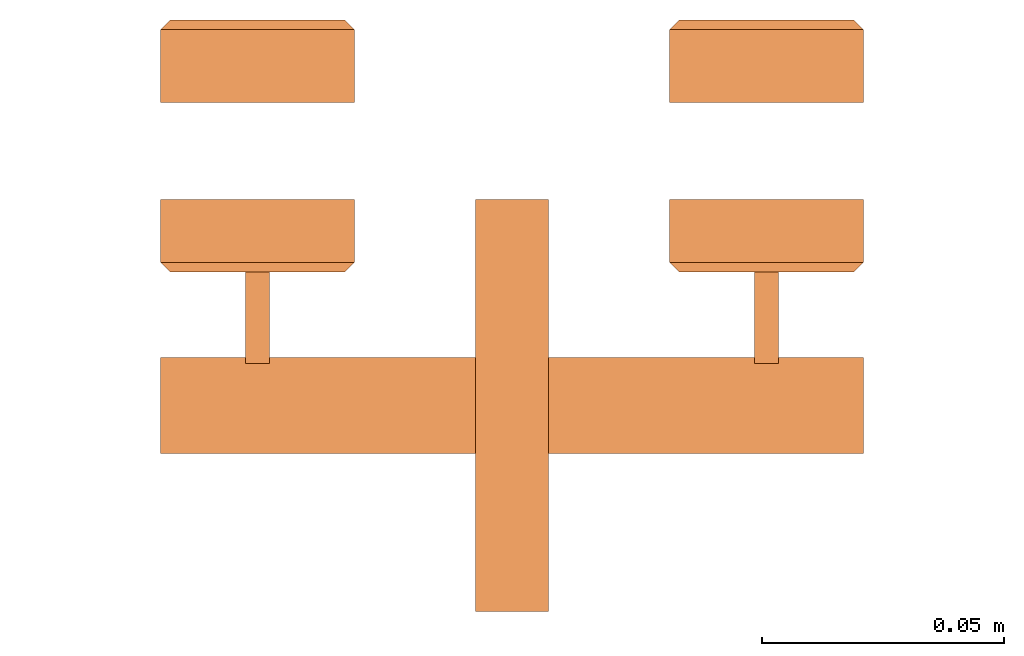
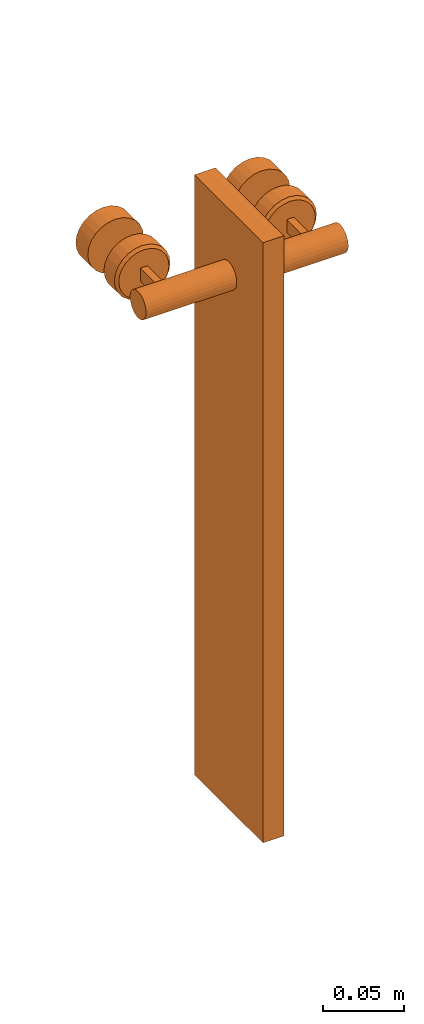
# One storey, part 4 of 10: 1 proxy.
"""IFC2X3 building model written with IfcOpenShell, lengths in millimetres."""

import ifcopenshell
import ifcopenshell.guid

model = None  # the IFC model being written
_history = None  # IfcOwnerHistory: only IFC2X3 demands one
_inside = {}  # id of a spatial element -> (the spatial element, [elements in it])
_under = {}  # id of a project, library or spatial element -> (it, [spatial elements below it])
_declared = {}  # id of a project -> (the project, [libraries it declares])
_typed = {}  # id of a type object -> (the type object, [elements of that type])
_made_of = {}  # id of a material, layer set ... -> (it, [elements and type objects made of it])


def new_model(schema):
    """Start an empty IFC model of exactly this schema.

    Asked for "IFC4X3", IfcOpenShell would pick the latest addendum, in which some entities
    have other attributes; the version numbers below select the first issue.
    IFC2X3 requires an IfcOwnerHistory on every rooted entity: one is made here for all.
    """
    global model, _history
    if schema == "IFC4X3":
        model = ifcopenshell.file(schema_version=(4, 3, 0, 0))
    else:
        model = ifcopenshell.file(schema=schema)
    _inside.clear()
    _under.clear()
    _declared.clear()
    _typed.clear()
    _made_of.clear()
    _history = None
    if model.schema == "IFC2X3":
        org = make("IfcOrganization", Name="unknown")
        user = make(
            "IfcPersonAndOrganization",
            ThePerson=make("IfcPerson", FamilyName="unknown"),
            TheOrganization=org,
        )
        app = make(
            "IfcApplication",
            ApplicationDeveloper=org,
            Version="unknown",
            ApplicationFullName="unknown",
            ApplicationIdentifier="unknown",
        )
        _history = make(
            "IfcOwnerHistory",
            OwningUser=user,
            OwningApplication=app,
            ChangeAction="ADDED",
            CreationDate=0,
        )
    return model


def make(cls, **values):
    """One entity of the class cls with the attributes given. An attribute that is None is left unset."""
    return model.create_entity(
        cls, **{name: value for name, value in values.items() if value is not None}
    )


def entity(cls, *values):
    """Any entity or typed value of the class cls, its attributes in the order of the schema. None: left unset."""
    e = model.create_entity(cls)
    for i, value in enumerate(values):
        if value is not None:
            e[i] = value
    return e


def rooted(cls, **values):
    """An entity with a GlobalId (a new one), such as an element, a storey or a relation."""
    return make(cls, GlobalId=ifcopenshell.guid.new(), OwnerHistory=_history, **values)


def si_unit(unit_type, name, prefix=None):
    """IfcSIUnit, for example si_unit("LENGTHUNIT", "METRE", prefix="MILLI")."""
    return make("IfcSIUnit", UnitType=unit_type, Prefix=prefix, Name=name)


def converted_unit(unit_type, name, factor, base, dimensions=None, offset=None):
    """IfcConversionBasedUnit, such as the inch: factor (a typed value) times the base unit."""
    return make(
        "IfcConversionBasedUnit"
        if offset is None
        else "IfcConversionBasedUnitWithOffset",
        ConversionOffset=offset,
        Dimensions=None
        if dimensions is None
        else entity("IfcDimensionalExponents", *dimensions),
        UnitType=unit_type,
        Name=name,
        ConversionFactor=make(
            "IfcMeasureWithUnit", ValueComponent=factor, UnitComponent=base
        ),
    )


def derived_unit(unit_type, elements):
    """IfcDerivedUnit: a product of units, each with its exponent."""
    return make(
        "IfcDerivedUnit",
        Elements=[
            make("IfcDerivedUnitElement", Unit=unit, Exponent=power)
            for unit, power in elements
        ],
        UnitType=unit_type,
    )


def assignment(units):
    """IfcUnitAssignment: the units of a project."""
    return None if units is None else make("IfcUnitAssignment", Units=units)


def point(xyz):
    """IfcCartesianPoint."""
    return None if xyz is None else make("IfcCartesianPoint", Coordinates=xyz)


def direction(xyz):
    """IfcDirection."""
    return None if xyz is None else make("IfcDirection", DirectionRatios=xyz)


def frame(location, z_axis=None, x_axis=None):
    """IfcAxis2Placement3D, a coordinate frame: its origin and axes. An axis left out is left unset."""
    return make(
        "IfcAxis2Placement3D",
        Location=point(location),
        Axis=direction(z_axis),
        RefDirection=direction(x_axis),
    )


def origin_with_axes():
    """The frame at (0, 0, 0) with the z axis (0, 0, 1) and the x axis (1, 0, 0) written out."""
    return frame((0.0, 0.0, 0.0), z_axis=(0.0, 0.0, 1.0), x_axis=(1.0, 0.0, 0.0))


def place(relative_to, where):
    """IfcLocalPlacement: puts the frame where relative to a parent placement (None: the world)."""
    return make(
        "IfcLocalPlacement", PlacementRelTo=relative_to, RelativePlacement=where
    )


def context(
    kind, dimensions, precision=None, world=None, true_north=None, identifier=None
):
    """IfcGeometricRepresentationContext, for example the 3D "Model" context."""
    return make(
        "IfcGeometricRepresentationContext",
        ContextIdentifier=identifier,
        ContextType=kind,
        CoordinateSpaceDimension=dimensions,
        Precision=precision,
        WorldCoordinateSystem=world,
        TrueNorth=true_north,
    )


def subcontext(parent, identifier, kind, view, scale=None):
    """IfcGeometricRepresentationSubContext, for example "Body" below "Model"."""
    return make(
        "IfcGeometricRepresentationSubContext",
        ContextIdentifier=identifier,
        ContextType=kind,
        ParentContext=parent,
        TargetScale=scale,
        TargetView=view,
    )


def project(units=None, contexts=None):
    """IfcProject with its units and contexts."""
    return rooted(
        "IfcProject",
        Name="project",
        RepresentationContexts=contexts,
        UnitsInContext=assignment(units),
    )


def spatial(cls, under=None, at=None, **own):
    """A site, building, storey or space (cls), placed at a placement, below another one or the project."""
    s = rooted(cls, ObjectPlacement=at, **own)
    if under is not None:
        _under.setdefault(under.id(), (under, []))[1].append(s)
    return s


def faces_of(points, faces, orient=None, outer=None):
    """IfcFace entities. A face is a list of loops; a loop is a list of indices into points, from 0.

    orient and outer hold one flag for each loop. By default every Orientation is true, the
    first loop of a face is its IfcFaceOuterBound and the others are IfcFaceBound.
    """
    made = []
    for i, loops in enumerate(faces):
        bounds = []
        for j, loop in enumerate(loops):
            is_outer = j == 0 if outer is None else outer[i][j]
            bounds.append(
                make(
                    "IfcFaceOuterBound" if is_outer else "IfcFaceBound",
                    Bound=make("IfcPolyLoop", Polygon=[points[k] for k in loop]),
                    Orientation=True if orient is None else orient[i][j],
                )
            )
        made.append(make("IfcFace", Bounds=bounds))
    return made


def faceted_brep(points, faces, orient=None, outer=None, voids=None):
    """IfcFacetedBrep: a solid bounded by flat faces; with voids (closed shells), ...WithVoids."""
    shared = [point(p) for p in points]
    hull = make("IfcClosedShell", CfsFaces=faces_of(shared, faces, orient, outer))
    if voids is None:
        return make("IfcFacetedBrep", Outer=hull)
    return make(
        "IfcFacetedBrepWithVoids",
        Outer=hull,
        Voids=[
            make(cls, CfsFaces=faces_of(shared, fs, o, b)) for cls, fs, o, b in voids
        ],
    )


def shape(context_of_items, identifier, shape_type, items):
    """IfcShapeRepresentation: the items that make up one representation, for example the "Body"."""
    return make(
        "IfcShapeRepresentation",
        ContextOfItems=context_of_items,
        RepresentationIdentifier=identifier,
        RepresentationType=shape_type,
        Items=items,
    )


def material(Name=None, Category=None):
    """IfcMaterial."""
    return make("IfcMaterial", Name=Name, Category=Category)


def material_list(materials):
    """IfcMaterialList."""
    return make("IfcMaterialList", Materials=materials)


def made_of(thing, what):
    """Note that an element or type object is made of a material, layer set ...; save() writes the relation."""
    if what is not None:
        _made_of.setdefault(what.id(), (what, []))[1].append(thing)
    return thing


def type_object(cls, material=None, **own):
    """A type object (cls), such as IfcWallType, which elements share."""
    return made_of(rooted(cls, **own), material)


def element(
    cls,
    number,
    at=None,
    inside=None,
    cuts=None,
    type_object=None,
    material=None,
    context=None,
    identifier="Body",
    shape_type=None,
    held_by="IfcProductDefinitionShape",
    body=None,
    shapes=None,
    **own,
):
    """One element of the class cls, such as IfcWall. Its Tag is "e" and its number.

    at: its placement. inside: the storey or other place that contains it. cuts: it is an
    opening in that element (IfcRelVoidsElement). A single representation is given by context,
    identifier, shape_type and body (its items); several are given by shapes. held_by: the class
    of the entity that holds the representations. save() writes the other relations.
    """
    e = rooted(cls, Tag="e%d" % number, ObjectPlacement=at, **own)
    if body is not None:
        shapes = [shape(context, identifier, shape_type, body)]
    if shapes is not None:
        e.Representation = make(held_by, Representations=shapes)
    if inside is not None:
        _inside.setdefault(inside.id(), (inside, []))[1].append(e)
    if cuts is not None:
        rooted(
            "IfcRelVoidsElement", RelatingBuildingElement=cuts, RelatedOpeningElement=e
        )
    if type_object is not None:
        _typed.setdefault(type_object.id(), (type_object, []))[1].append(e)
    return made_of(e, material)


def aggregate(whole, parts):
    """IfcRelAggregates: a whole, such as a stair, and the parts it consists of."""
    return rooted("IfcRelAggregates", RelatingObject=whole, RelatedObjects=parts)


def save(model, path):
    """Write the relations noted so far, then the file.

    IfcRelAggregates (storeys below a building ...), IfcRelContainedInSpatialStructure (elements
    in a storey), IfcRelDefinesByType, IfcRelAssociatesMaterial and IfcRelDeclares: one each for
    every whole, place, type object, material and project.
    """
    for whole, parts in _under.values():
        aggregate(whole, parts)
    for where, things in _inside.values():
        rooted(
            "IfcRelContainedInSpatialStructure",
            RelatedElements=things,
            RelatingStructure=where,
        )
    for kind, things in _typed.values():
        rooted("IfcRelDefinesByType", RelatedObjects=things, RelatingType=kind)
    for what, things in _made_of.values():
        rooted("IfcRelAssociatesMaterial", RelatedObjects=things, RelatingMaterial=what)
    for by, libraries in _declared.values():
        rooted("IfcRelDeclares", RelatingContext=by, RelatedDefinitions=libraries)
    model.write(path)


model = new_model("IFC2X3")

# Units and contexts
model_context = context("Model", 3, precision=0.01, world=frame((0.0, 4.29681676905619e-09, 0.0)), true_north=direction((4.01073788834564e-13, 1.0)))
plan_context = context("Plan", 3, precision=0.01, world=frame((0.0, 4.29681676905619e-09, 0.0)), true_north=direction((4.01073788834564e-13, 1.0)))
footprint_context = subcontext(model_context, "FootPrint", "Model", "MODEL_VIEW")
ifc_project = project(units=[converted_unit("PLANEANGLEUNIT", "DEGREE", entity("IfcPositiveLengthMeasure", 0.0174532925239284), si_unit("PLANEANGLEUNIT", "RADIAN"), dimensions=[0, 0, 0, 0, 0, 0, 0]), si_unit("AREAUNIT", "SQUARE_METRE"), si_unit("LENGTHUNIT", "METRE", prefix="MILLI"), si_unit("MASSUNIT", "GRAM", prefix="KILO"), si_unit("POWERUNIT", "WATT"), si_unit("PRESSUREUNIT", "PASCAL"), si_unit("FORCEUNIT", "NEWTON", prefix="KILO"), si_unit("ELECTRICVOLTAGEUNIT", "VOLT"), si_unit("ELECTRICCURRENTUNIT", "AMPERE"), si_unit("THERMODYNAMICTEMPERATUREUNIT", "DEGREE_CELSIUS"), si_unit("TIMEUNIT", "SECOND"), si_unit("VOLUMEUNIT", "CUBIC_METRE"), derived_unit("LINEARVELOCITYUNIT", [(si_unit("LENGTHUNIT", "METRE"), 1), (si_unit("TIMEUNIT", "SECOND"), -1)]), derived_unit("VOLUMETRICFLOWRATEUNIT", [(si_unit("VOLUMEUNIT", "CUBIC_METRE"), 1), (si_unit("TIMEUNIT", "SECOND"), -1)]), derived_unit("THERMALTRANSMITTANCEUNIT", [(si_unit("POWERUNIT", "WATT"), 1), (si_unit("THERMODYNAMICTEMPERATUREUNIT", "KELVIN"), -1), (si_unit("AREAUNIT", "SQUARE_METRE"), -1)]), derived_unit("SOUNDPRESSUREUNIT", [(si_unit("PRESSUREUNIT", "PASCAL"), 1)])], contexts=[model_context, plan_context])

# Site, building, storey
site_placement = place(None, origin_with_axes())
site = spatial("IfcSite", under=ifc_project, at=site_placement, Name="ENGM", CompositionType="ELEMENT")
building_placement = place(site_placement, origin_with_axes())
building = spatial("IfcBuilding", under=site, at=building_placement, Name="TH", CompositionType="ELEMENT")
storey_placement = place(building_placement, frame((0.0, 0.0, 197000.0), z_axis=(0.0, 0.0, 1.0), x_axis=(1.0, 0.0, 0.0)))
storey = spatial("IfcBuildingStorey", under=building, at=storey_placement, Name="Nivå B", CompositionType="ELEMENT", Elevation=197000.0)

# Proxy
ifc_material_1 = material(Name="<Unnamed>")
ifc_material_2 = material(Name="Steel, Cast")
ifc_material_list = material_list([ifc_material_1, ifc_material_2])
building_element_proxy_type = type_object("IfcBuildingElementProxyType", Name="Stål rekkverk unit + 285 ned:B280 - Stål rekkverk unit + 285 ned", PredefinedType="NOTDEFINED", material=ifc_material_list)
proxy_placement = place(storey_placement, frame((899500.000000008, 480820.004374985, 16699.9891538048), z_axis=(0.0, 0.0, 1.0), x_axis=(0.0, -1.0, 0.0)))
element("IfcBuildingElementProxy", 1, at=proxy_placement, inside=storey, type_object=building_element_proxy_type, Name="Stål rekkverk unit + 285 ned:B280 - Stål rekkverk unit + 285 ned", ObjectType="Stål rekkverk unit + 285 ned:B280 - Stål rekkverk unit + 285 ned", context=footprint_context, shape_type="Brep", body=[
    faceted_brep([(13.0, 47.3236190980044, 169.329362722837), (0.0, 47.3236190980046, 169.329362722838), (0.0, 52.5, 170.010846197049), (13.0, 52.4999999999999, 170.010846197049), (0.0, 57.6763809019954, 169.329362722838), (13.0, 57.6763809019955, 169.329362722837), (0.0, 62.4999999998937, 167.331354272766), (13.0, 62.4999999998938, 167.331354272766), (13.0, 66.6421356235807, 164.152981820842), (0.0, 66.6421356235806, 164.152981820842), (0.0, 69.8205080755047, 160.010846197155), (13.0, 69.8205080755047, 160.010846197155), (0.0, 71.818516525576, 155.187227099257), (13.0, 71.818516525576, 155.187227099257), (13.0, 72.4999999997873, 150.010846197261), (0.0, 72.4999999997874, 150.010846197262), (0.0, 71.818516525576, 144.834465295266), (13.0, 71.8185165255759, 144.834465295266), (0.0, 69.8205080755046, 140.010846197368), (13.0, 69.8205080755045, 140.010846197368), (0.0, 66.6421356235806, 135.868710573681), (13.0, 66.6421356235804, 135.868710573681), (0.0, 62.4999999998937, 132.690338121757), (13.0, 62.4999999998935, 132.690338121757), (0.0, 57.6763809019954, 130.692329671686), (13.0, 57.6763809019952, 130.692329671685), (0.0, 52.4999999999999, 130.010846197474), (13.0, 52.5, 130.010846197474), (0.0, 47.3236190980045, 130.692329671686), (13.0, 47.3236190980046, 130.692329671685), (0.0, 42.5000000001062, 132.690338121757), (13.0, 42.5000000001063, 132.690338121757), (13.0, 38.3578643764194, 135.868710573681), (0.0, 38.3578643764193, 135.868710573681), (0.0, 35.1794919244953, 140.010846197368), (13.0, 35.1794919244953, 140.010846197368), (0.0, 33.1814834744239, 144.834465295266), (13.0, 33.1814834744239, 144.834465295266), (13.0, 32.5000000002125, 150.010846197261), (0.0, 32.5000000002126, 150.010846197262), (0.0, 33.181483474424, 155.187227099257), (13.0, 33.1814834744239, 155.187227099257), (0.0, 35.1794919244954, 160.010846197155), (13.0, 35.1794919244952, 160.010846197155), (0.0, 38.3578643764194, 164.152981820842), (13.0, 38.3578643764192, 164.152981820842), (0.0, 42.5000000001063, 167.331354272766), (13.0, 42.5000000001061, 167.331354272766), (15.0, 61.5000000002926, 165.599303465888), (15.0, 65.2279220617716, 162.738768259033), (15.0, 68.0884572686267, 159.010846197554), (15.0, 69.8866648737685, 154.669589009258), (15.0, 70.5000000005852, 150.010846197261), (15.0, 69.8866648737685, 145.352103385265), (15.0, 68.0884572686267, 141.010846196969), (15.0, 65.2279220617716, 137.28292413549), (15.0, 61.5000000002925, 134.422388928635), (15.0, 57.1587428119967, 132.624181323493), (15.0, 52.4999999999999, 132.010846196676), (15.0, 47.8412571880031, 132.624181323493), (15.0, 43.4999999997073, 134.422388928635), (15.0, 39.7720779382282, 137.28292413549), (15.0, 36.9115427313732, 141.010846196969), (15.0, 35.1133351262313, 145.352103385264), (15.0, 34.4999999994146, 150.010846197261), (15.0, 35.1133351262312, 154.669589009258), (15.0, 36.911542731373, 159.010846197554), (15.0, 39.772077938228, 162.738768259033), (15.0, 43.4999999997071, 165.599303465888), (15.0, 47.8412571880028, 167.39751107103), (15.0, 52.4999999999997, 168.010846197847), (15.0, 57.1587428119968, 167.39751107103)], [[[0, 1, 2, 3]], [[2, 4, 5, 3]], [[4, 6, 7, 5]], [[8, 7, 6, 9]], [[8, 9, 10, 11]], [[10, 12, 13, 11]], [[14, 13, 12, 15]], [[16, 17, 14, 15]], [[16, 18, 19, 17]], [[18, 20, 21, 19]], [[22, 23, 21, 20]], [[23, 22, 24, 25]], [[25, 24, 26, 27]], [[26, 28, 29, 27]], [[28, 30, 31, 29]], [[32, 31, 30, 33]], [[32, 33, 34, 35]], [[34, 36, 37, 35]], [[38, 37, 36, 39]], [[40, 41, 38, 39]], [[40, 42, 43, 41]], [[42, 44, 45, 43]], [[46, 47, 45, 44]], [[47, 46, 1, 0]], [[30, 28, 26, 24, 22, 20, 18, 16, 15, 12, 10, 9, 6, 4, 2, 1, 46, 44, 42, 40, 39, 36, 34, 33]], [[48, 49, 50, 51, 52, 53, 54, 55, 56, 57, 58, 59, 60, 61, 62, 63, 64, 65, 66, 67, 68, 69, 70, 71]], [[3, 70, 69, 0]], [[3, 5, 71, 70]], [[5, 7, 48, 71]], [[7, 8, 49, 48]], [[50, 49, 8, 11]], [[13, 51, 50, 11]], [[14, 52, 51, 13]], [[14, 17, 53, 52]], [[17, 19, 54, 53]], [[19, 21, 55, 54]], [[56, 55, 21, 23]], [[25, 57, 56, 23]], [[27, 58, 57, 25]], [[27, 29, 59, 58]], [[29, 31, 60, 59]], [[31, 32, 61, 60]], [[62, 61, 32, 35]], [[37, 63, 62, 35]], [[38, 64, 63, 37]], [[38, 41, 65, 64]], [[41, 43, 66, 65]], [[43, 45, 67, 66]], [[68, 67, 45, 47]], [[0, 69, 68, 47]]], orient=[[False], [False], [False], [False], [False], [False], [False], [False], [False], [False], [False], [False], [False], [False], [False], [False], [False], [False], [False], [False], [False], [False], [False], [False], [False], [False], [False], [False], [False], [False], [False], [False], [False], [False], [False], [False], [False], [False], [False], [False], [False], [False], [False], [False], [False], [False], [False], [False], [False], [False]]),
    faceted_brep([(13.0, -47.3236190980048, 130.692329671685), (0.0, -47.3236190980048, 130.692329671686), (0.0, -52.5000000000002, 130.010846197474), (13.0, -52.5000000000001, 130.010846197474), (0.0, -57.6763809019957, 130.692329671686), (13.0, -57.6763809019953, 130.692329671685), (0.0, -62.499999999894, 132.690338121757), (13.0, -62.4999999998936, 132.690338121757), (13.0, -66.6421356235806, 135.868710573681), (0.0, -66.6421356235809, 135.868710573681), (0.0, -69.8205080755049, 140.010846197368), (13.0, -69.8205080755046, 140.010846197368), (0.0, -71.8185165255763, 144.834465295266), (13.0, -71.818516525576, 144.834465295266), (13.0, -72.4999999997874, 150.010846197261), (0.0, -72.4999999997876, 150.010846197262), (0.0, -71.8185165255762, 155.187227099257), (13.0, -71.818516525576, 155.187227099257), (0.0, -69.8205080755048, 160.010846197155), (13.0, -69.8205080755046, 160.010846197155), (0.0, -66.6421356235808, 164.152981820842), (13.0, -66.6421356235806, 164.152981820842), (0.0, -62.4999999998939, 167.331354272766), (13.0, -62.4999999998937, 167.331354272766), (0.0, -57.6763809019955, 169.329362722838), (13.0, -57.6763809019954, 169.329362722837), (0.0, -52.5000000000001, 170.010846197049), (13.0, -52.4999999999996, 170.010846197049), (0.0, -47.3236190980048, 169.329362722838), (13.0, -47.3236190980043, 169.329362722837), (0.0, -42.5000000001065, 167.331354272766), (13.0, -42.500000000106, 167.331354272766), (13.0, -38.3578643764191, 164.152981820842), (0.0, -38.3578643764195, 164.152981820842), (0.0, -35.1794919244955, 160.010846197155), (13.0, -35.1794919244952, 160.010846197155), (0.0, -33.1814834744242, 155.187227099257), (13.0, -33.1814834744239, 155.187227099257), (13.0, -32.5000000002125, 150.010846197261), (0.0, -32.5000000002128, 150.010846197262), (0.0, -33.1814834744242, 144.834465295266), (13.0, -33.181483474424, 144.834465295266), (0.0, -35.1794919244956, 140.010846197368), (13.0, -35.1794919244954, 140.010846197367), (0.0, -38.3578643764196, 135.868710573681), (13.0, -38.3578643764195, 135.868710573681), (0.0, -42.5000000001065, 132.690338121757), (13.0, -42.5000000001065, 132.690338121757), (15.0, -47.841257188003, 167.39751107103), (15.0, -43.4999999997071, 165.599303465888), (15.0, -39.7720779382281, 162.738768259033), (15.0, -36.9115427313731, 159.010846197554), (15.0, -35.1133351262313, 154.669589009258), (15.0, -34.4999999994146, 150.010846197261), (15.0, -35.1133351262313, 145.352103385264), (15.0, -36.9115427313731, 141.010846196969), (15.0, -39.7720779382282, 137.28292413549), (15.0, -43.4999999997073, 134.422388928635), (15.0, -47.8412571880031, 132.624181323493), (15.0, -52.5, 132.010846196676), (15.0, -57.1587428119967, 132.624181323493), (15.0, -61.5000000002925, 134.422388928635), (15.0, -65.2279220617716, 137.28292413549), (15.0, -68.0884572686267, 141.010846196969), (15.0, -69.8866648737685, 145.352103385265), (15.0, -70.5000000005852, 150.010846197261), (15.0, -69.8866648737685, 154.669589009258), (15.0, -68.0884572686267, 159.010846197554), (15.0, -65.2279220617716, 162.738768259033), (15.0, -61.5000000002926, 165.599303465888), (15.0, -57.1587428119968, 167.39751107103), (15.0, -52.4999999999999, 168.010846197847)], [[[0, 1, 2, 3]], [[2, 4, 5, 3]], [[4, 6, 7, 5]], [[8, 7, 6, 9]], [[8, 9, 10, 11]], [[10, 12, 13, 11]], [[14, 13, 12, 15]], [[16, 17, 14, 15]], [[16, 18, 19, 17]], [[18, 20, 21, 19]], [[22, 23, 21, 20]], [[23, 22, 24, 25]], [[25, 24, 26, 27]], [[26, 28, 29, 27]], [[28, 30, 31, 29]], [[32, 31, 30, 33]], [[32, 33, 34, 35]], [[34, 36, 37, 35]], [[38, 37, 36, 39]], [[40, 41, 38, 39]], [[40, 42, 43, 41]], [[42, 44, 45, 43]], [[46, 47, 45, 44]], [[47, 46, 1, 0]], [[33, 30, 28, 26, 24, 22, 20, 18, 16, 15, 12, 10, 9, 6, 4, 2, 1, 46, 44, 42, 40, 39, 36, 34]], [[48, 49, 50, 51, 52, 53, 54, 55, 56, 57, 58, 59, 60, 61, 62, 63, 64, 65, 66, 67, 68, 69, 70, 71]], [[71, 27, 29, 48]], [[27, 71, 70, 25]], [[25, 70, 69, 23]], [[21, 23, 69, 68]], [[67, 19, 21, 68]], [[66, 17, 19, 67]], [[66, 65, 14, 17]], [[14, 65, 64, 13]], [[13, 64, 63, 11]], [[11, 63, 62, 8]], [[7, 8, 62, 61]], [[60, 5, 7, 61]], [[59, 3, 5, 60]], [[3, 59, 58, 0]], [[0, 58, 57, 47]], [[45, 47, 57, 56]], [[55, 43, 45, 56]], [[54, 41, 43, 55]], [[54, 53, 38, 41]], [[38, 53, 52, 37]], [[37, 52, 51, 35]], [[35, 51, 50, 32]], [[31, 32, 50, 49]], [[48, 29, 31, 49]]], orient=[[False], [False], [False], [False], [False], [False], [False], [False], [False], [False], [False], [False], [False], [False], [False], [False], [False], [False], [False], [False], [False], [False], [False], [False], [False], [False], [False], [False], [False], [False], [False], [False], [False], [False], [False], [False], [False], [False], [False], [False], [False], [False], [False], [False], [False], [False], [False], [False], [False], [False]]),
    faceted_brep([(-35.0, 47.3236190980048, 130.692329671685), (-20.0, 47.3236190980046, 130.692329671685), (-20.0, 52.5, 130.010846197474), (-35.0, 52.5, 130.010846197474), (-20.0, 57.6763809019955, 130.692329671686), (-35.0, 57.6763809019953, 130.692329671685), (-20.0, 62.4999999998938, 132.690338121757), (-35.0, 62.4999999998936, 132.690338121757), (-35.0, 66.6421356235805, 135.868710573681), (-20.0, 66.6421356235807, 135.868710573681), (-20.0, 69.8205080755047, 140.010846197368), (-35.0, 69.8205080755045, 140.010846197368), (-20.0, 71.818516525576, 144.834465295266), (-35.0, 71.8185165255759, 144.834465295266), (-35.0, 72.4999999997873, 150.010846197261), (-20.0, 72.4999999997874, 150.010846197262), (-20.0, 71.818516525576, 155.187227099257), (-35.0, 71.8185165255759, 155.187227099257), (-20.0, 69.8205080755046, 160.010846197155), (-35.0, 69.8205080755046, 160.010846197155), (-20.0, 66.6421356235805, 164.152981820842), (-35.0, 66.6421356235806, 164.152981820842), (-20.0, 62.4999999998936, 167.331354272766), (-35.0, 62.4999999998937, 167.331354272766), (-20.0, 57.6763809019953, 169.329362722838), (-35.0, 57.6763809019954, 169.329362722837), (-20.0, 52.4999999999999, 170.010846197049), (-35.0, 52.4999999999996, 170.010846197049), (-20.0, 47.3236190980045, 169.329362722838), (-35.0, 47.3236190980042, 169.329362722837), (-20.0, 42.5000000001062, 167.331354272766), (-35.0, 42.5000000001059, 167.331354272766), (-35.0, 38.3578643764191, 164.152981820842), (-20.0, 38.3578643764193, 164.152981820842), (-20.0, 35.1794919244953, 160.010846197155), (-35.0, 35.1794919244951, 160.010846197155), (-20.0, 33.1814834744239, 155.187227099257), (-35.0, 33.1814834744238, 155.187227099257), (-35.0, 32.5000000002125, 150.010846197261), (-20.0, 32.5000000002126, 150.010846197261), (-20.0, 33.181483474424, 144.834465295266), (-35.0, 33.181483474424, 144.834465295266), (-20.0, 35.1794919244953, 140.010846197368), (-35.0, 35.1794919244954, 140.010846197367), (-20.0, 38.3578643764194, 135.868710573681), (-35.0, 38.3578643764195, 135.868710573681), (-20.0, 42.5000000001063, 132.690338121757), (-35.0, 42.5000000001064, 132.690338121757), (-37.0, 47.841257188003, 167.39751107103), (-37.0, 43.4999999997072, 165.599303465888), (-37.0, 39.7720779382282, 162.738768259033), (-37.0, 36.9115427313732, 159.010846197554), (-37.0, 35.1133351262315, 154.669589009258), (-37.0, 34.4999999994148, 150.010846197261), (-37.0, 35.1133351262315, 145.352103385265), (-37.0, 36.9115427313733, 141.010846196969), (-37.0, 39.7720779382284, 137.28292413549), (-37.0, 43.4999999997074, 134.422388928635), (-37.0, 47.8412571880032, 132.624181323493), (-37.0, 52.5, 132.010846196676), (-37.0, 57.1587428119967, 132.624181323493), (-37.0, 61.5000000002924, 134.422388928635), (-37.0, 65.2279220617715, 137.28292413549), (-37.0, 68.0884572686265, 141.010846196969), (-37.0, 69.8866648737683, 145.352103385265), (-37.0, 70.500000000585, 150.010846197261), (-37.0, 69.8866648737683, 154.669589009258), (-37.0, 68.0884572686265, 159.010846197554), (-37.0, 65.2279220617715, 162.738768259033), (-37.0, 61.5000000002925, 165.599303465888), (-37.0, 57.1587428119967, 167.39751107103), (-37.0, 52.4999999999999, 168.010846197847)], [[[0, 1, 2, 3]], [[2, 4, 5, 3]], [[4, 6, 7, 5]], [[8, 7, 6, 9]], [[8, 9, 10, 11]], [[10, 12, 13, 11]], [[14, 13, 12, 15]], [[16, 17, 14, 15]], [[16, 18, 19, 17]], [[18, 20, 21, 19]], [[22, 23, 21, 20]], [[23, 22, 24, 25]], [[25, 24, 26, 27]], [[26, 28, 29, 27]], [[28, 30, 31, 29]], [[32, 31, 30, 33]], [[32, 33, 34, 35]], [[34, 36, 37, 35]], [[38, 37, 36, 39]], [[40, 41, 38, 39]], [[40, 42, 43, 41]], [[42, 44, 45, 43]], [[46, 47, 45, 44]], [[47, 46, 1, 0]], [[33, 30, 28, 26, 24, 22, 20, 18, 16, 15, 12, 10, 9, 6, 4, 2, 1, 46, 44, 42, 40, 39, 36, 34]], [[48, 49, 50, 51, 52, 53, 54, 55, 56, 57, 58, 59, 60, 61, 62, 63, 64, 65, 66, 67, 68, 69, 70, 71]], [[71, 27, 29, 48]], [[27, 71, 70, 25]], [[25, 70, 69, 23]], [[21, 23, 69, 68]], [[67, 19, 21, 68]], [[66, 17, 19, 67]], [[66, 65, 14, 17]], [[14, 65, 64, 13]], [[13, 64, 63, 11]], [[11, 63, 62, 8]], [[7, 8, 62, 61]], [[60, 5, 7, 61]], [[59, 3, 5, 60]], [[3, 59, 58, 0]], [[0, 58, 57, 47]], [[45, 47, 57, 56]], [[55, 43, 45, 56]], [[54, 41, 43, 55]], [[54, 53, 38, 41]], [[38, 53, 52, 37]], [[37, 52, 51, 35]], [[35, 51, 50, 32]], [[31, 32, 50, 49]], [[48, 29, 31, 49]]], orient=[[False], [False], [False], [False], [False], [False], [False], [False], [False], [False], [False], [False], [False], [False], [False], [False], [False], [False], [False], [False], [False], [False], [False], [False], [False], [False], [False], [False], [False], [False], [False], [False], [False], [False], [False], [False], [False], [False], [False], [False], [False], [False], [False], [False], [False], [False], [False], [False], [False], [False]]),
    faceted_brep([(-35.0, -47.3236190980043, 169.329362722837), (-20.0, -47.3236190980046, 169.329362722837), (-20.0, -52.5, 170.010846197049), (-35.0, -52.4999999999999, 170.010846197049), (-20.0, -57.6763809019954, 169.329362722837), (-35.0, -57.6763809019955, 169.329362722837), (-20.0, -62.4999999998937, 167.331354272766), (-35.0, -62.4999999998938, 167.331354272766), (-35.0, -66.6421356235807, 164.152981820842), (-20.0, -66.6421356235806, 164.152981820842), (-20.0, -69.8205080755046, 160.010846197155), (-35.0, -69.8205080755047, 160.010846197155), (-20.0, -71.818516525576, 155.187227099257), (-35.0, -71.818516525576, 155.187227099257), (-35.0, -72.4999999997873, 150.010846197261), (-20.0, -72.4999999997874, 150.010846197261), (-20.0, -71.818516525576, 144.834465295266), (-35.0, -71.8185165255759, 144.834465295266), (-20.0, -69.8205080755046, 140.010846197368), (-35.0, -69.8205080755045, 140.010846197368), (-20.0, -66.6421356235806, 135.868710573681), (-35.0, -66.6421356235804, 135.868710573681), (-20.0, -62.4999999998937, 132.690338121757), (-35.0, -62.4999999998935, 132.690338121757), (-20.0, -57.6763809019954, 130.692329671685), (-35.0, -57.6763809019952, 130.692329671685), (-20.0, -52.4999999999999, 130.010846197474), (-35.0, -52.5, 130.010846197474), (-20.0, -47.3236190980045, 130.692329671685), (-35.0, -47.3236190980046, 130.692329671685), (-20.0, -42.5000000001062, 132.690338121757), (-35.0, -42.5000000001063, 132.690338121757), (-35.0, -38.3578643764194, 135.868710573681), (-20.0, -38.3578643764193, 135.868710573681), (-20.0, -35.1794919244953, 140.010846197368), (-35.0, -35.1794919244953, 140.010846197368), (-20.0, -33.1814834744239, 144.834465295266), (-35.0, -33.1814834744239, 144.834465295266), (-35.0, -32.5000000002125, 150.010846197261), (-20.0, -32.5000000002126, 150.010846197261), (-20.0, -33.181483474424, 155.187227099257), (-35.0, -33.1814834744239, 155.187227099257), (-20.0, -35.1794919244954, 160.010846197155), (-35.0, -35.1794919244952, 160.010846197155), (-20.0, -38.3578643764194, 164.152981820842), (-35.0, -38.3578643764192, 164.152981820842), (-20.0, -42.5000000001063, 167.331354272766), (-35.0, -42.5000000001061, 167.331354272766), (-37.0, -68.0884572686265, 159.010846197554), (-37.0, -69.8866648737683, 154.669589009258), (-37.0, -70.500000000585, 150.010846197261), (-37.0, -69.8866648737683, 145.352103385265), (-37.0, -68.0884572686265, 141.010846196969), (-37.0, -65.2279220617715, 137.28292413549), (-37.0, -61.5000000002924, 134.422388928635), (-37.0, -57.1587428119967, 132.624181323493), (-37.0, -52.4999999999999, 132.010846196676), (-37.0, -47.8412571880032, 132.624181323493), (-37.0, -43.4999999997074, 134.422388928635), (-37.0, -39.7720779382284, 137.28292413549), (-37.0, -36.9115427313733, 141.010846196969), (-37.0, -35.1133351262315, 145.352103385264), (-37.0, -34.4999999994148, 150.010846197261), (-37.0, -35.1133351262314, 154.669589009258), (-37.0, -36.9115427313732, 159.010846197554), (-37.0, -39.7720779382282, 162.738768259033), (-37.0, -43.4999999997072, 165.599303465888), (-37.0, -47.8412571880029, 167.39751107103), (-37.0, -52.4999999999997, 168.010846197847), (-37.0, -57.1587428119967, 167.39751107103), (-37.0, -61.5000000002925, 165.599303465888), (-37.0, -65.2279220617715, 162.738768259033)], [[[0, 1, 2, 3]], [[2, 4, 5, 3]], [[4, 6, 7, 5]], [[8, 7, 6, 9]], [[8, 9, 10, 11]], [[10, 12, 13, 11]], [[14, 13, 12, 15]], [[16, 17, 14, 15]], [[16, 18, 19, 17]], [[18, 20, 21, 19]], [[22, 23, 21, 20]], [[23, 22, 24, 25]], [[25, 24, 26, 27]], [[26, 28, 29, 27]], [[28, 30, 31, 29]], [[32, 31, 30, 33]], [[32, 33, 34, 35]], [[34, 36, 37, 35]], [[38, 37, 36, 39]], [[40, 41, 38, 39]], [[40, 42, 43, 41]], [[42, 44, 45, 43]], [[46, 47, 45, 44]], [[47, 46, 1, 0]], [[30, 28, 26, 24, 22, 20, 18, 16, 15, 12, 10, 9, 6, 4, 2, 1, 46, 44, 42, 40, 39, 36, 34, 33]], [[48, 49, 50, 51, 52, 53, 54, 55, 56, 57, 58, 59, 60, 61, 62, 63, 64, 65, 66, 67, 68, 69, 70, 71]], [[3, 68, 67, 0]], [[3, 5, 69, 68]], [[5, 7, 70, 69]], [[7, 8, 71, 70]], [[48, 71, 8, 11]], [[13, 49, 48, 11]], [[14, 50, 49, 13]], [[14, 17, 51, 50]], [[17, 19, 52, 51]], [[19, 21, 53, 52]], [[54, 53, 21, 23]], [[25, 55, 54, 23]], [[27, 56, 55, 25]], [[27, 29, 57, 56]], [[29, 31, 58, 57]], [[31, 32, 59, 58]], [[60, 59, 32, 35]], [[37, 61, 60, 35]], [[38, 62, 61, 37]], [[38, 41, 63, 62]], [[41, 43, 64, 63]], [[43, 45, 65, 64]], [[66, 65, 45, 47]], [[0, 67, 66, 47]]], orient=[[False], [False], [False], [False], [False], [False], [False], [False], [False], [False], [False], [False], [False], [False], [False], [False], [False], [False], [False], [False], [False], [False], [False], [False], [False], [False], [False], [False], [False], [False], [False], [False], [False], [False], [False], [False], [False], [False], [False], [False], [False], [False], [False], [False], [False], [False], [False], [False], [False], [False]]),
    faceted_brep([(15.0, 55.0, 150.010846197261), (15.0, 55.0, 145.010846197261), (33.8397459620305, 55.0, 145.010846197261), (32.684234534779, 55.0, 148.100153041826), (32.5965825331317, 55.0, 151.397324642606), (32.8202668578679, 55.0, 152.330672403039), (33.043951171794, 55.0, 153.264020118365), (33.4418485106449, 55.0, 154.137433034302), (33.8397459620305, 55.0, 155.010846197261), (15.0, 55.0, 155.010846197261), (32.8407417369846, 50.0, 147.422655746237), (33.8397459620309, 50.0, 145.010846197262), (15.0, 50.0, 145.010846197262), (15.0, 50.0, 155.010846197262), (33.8397459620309, 50.0, 155.010846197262), (32.8407417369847, 50.0, 152.599036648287), (32.4999999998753, 50.0, 150.010846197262), (33.8397459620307, 53.2322327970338, 155.010846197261), (33.8397459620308, 51.7677672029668, 155.010846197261), (32.9716368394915, 53.491532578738, 152.487500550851), (33.0361072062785, 53.2322329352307, 152.674897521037), (33.3466911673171, 51.9830650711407, 153.577676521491), (33.4379265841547, 51.6161164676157, 153.842871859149), (32.6797821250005, 51.4973074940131, 151.42145150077), (32.653529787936, 52.8595554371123, 151.009317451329), (32.599320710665, 52.5000003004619, 148.964793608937), (33.8397459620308, 51.9830651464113, 145.010846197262), (33.8397459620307, 53.0169348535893, 145.010846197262)], [[[0, 1, 2, 3, 4, 5, 6, 7, 8, 9]], [[10, 11, 12, 13, 14, 15, 16]], [[9, 8, 17, 18, 14, 13]], [[4, 19, 20, 21, 22, 6, 5]], [[14, 22, 21, 23]], [[21, 24, 23]], [[23, 24, 25]], [[16, 23, 25]], [[16, 15, 23]], [[10, 16, 25]], [[10, 25, 26]], [[25, 27, 26]], [[3, 27, 25]], [[3, 2, 27]], [[26, 11, 10]], [[3, 25, 24]], [[3, 24, 4]], [[14, 23, 15]], [[22, 14, 18]], [[21, 20, 19, 4, 24]], [[22, 18, 6]], [[6, 18, 17, 8, 7]], [[1, 12, 11, 26, 27, 2]], [[0, 9, 13, 12, 1]]], orient=[[False], [False], [False], [False], [False], [False], [False], [False], [False], [False], [False], [False], [False], [False], [False], [False], [False], [False], [False], [False], [False], [False], [False], [False]]),
    faceted_brep([(15.0, -55.0, 155.010846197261), (33.8397459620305, -55.0, 155.010846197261), (33.4418485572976, -55.0, 154.137433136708), (33.043951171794, -55.0, 153.264020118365), (32.8202668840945, -55.0, 152.330672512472), (32.5965825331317, -55.0, 151.397324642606), (32.684234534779, -55.0, 148.100153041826), (33.8397459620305, -55.0, 145.010846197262), (15.0, -55.0, 145.010846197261), (15.0, -55.0, 150.010846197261), (33.8397459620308, -50.0, 155.010846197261), (15.0, -50.0, 155.010846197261), (15.0, -50.0, 145.010846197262), (33.8397459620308, -50.0, 145.010846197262), (32.8407417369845, -50.0, 147.422655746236), (32.4999999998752, -50.0, 150.010846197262), (32.8407417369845, -50.0, 152.599036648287), (33.8397459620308, -51.6161164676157, 155.010846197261), (33.8397459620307, -53.2322329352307, 155.010846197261), (33.4002212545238, -51.7677672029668, 153.733273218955), (33.3466911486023, -51.9830651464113, 153.577676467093), (32.5857865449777, -52.5000003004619, 149.146253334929), (33.0896373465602, -53.0169348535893, 152.830494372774), (33.0214289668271, -52.8595554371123, 146.858069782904), (33.8397459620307, -51.9830650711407, 145.010846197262), (33.8397459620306, -53.4915324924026, 145.010846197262), (32.8419199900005, -51.4973074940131, 147.467427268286), (33.0361072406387, -53.2322327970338, 152.674897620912)], [[[0, 1, 2, 3, 4, 5, 6, 7, 8, 9]], [[10, 11, 12, 13, 14, 15, 16]], [[0, 11, 10, 17, 18, 1]], [[17, 3, 2, 1, 18]], [[17, 19, 3]], [[17, 10, 19]], [[20, 19, 10, 16]], [[16, 21, 20]], [[21, 22, 20]], [[6, 22, 21]], [[6, 21, 23]], [[6, 23, 7]], [[24, 25, 7, 23]], [[24, 23, 26]], [[13, 24, 26]], [[13, 26, 14]], [[15, 14, 26]], [[15, 26, 21]], [[26, 23, 21]], [[5, 27, 22, 6]], [[16, 15, 21]], [[3, 19, 20, 22, 27, 5, 4]], [[8, 7, 25, 24, 13, 12]], [[8, 12, 11, 0, 9]]], orient=[[False], [False], [False], [False], [False], [False], [False], [False], [False], [False], [False], [False], [False], [False], [False], [False], [False], [False], [False], [False], [False], [False], [False], [False]]),
    faceted_brep([(33.2928803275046, 72.5, 153.913274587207), (33.2928803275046, -72.5, 153.913274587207), (32.5965825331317, -72.5, 151.397324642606), (32.5965825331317, 72.5, 151.397324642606), (32.5751862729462, -72.5, 148.786888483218), (32.5751862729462, 72.5, 148.786888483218), (33.2301496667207, -72.5, 146.259863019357), (33.2301496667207, 72.5, 146.259863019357), (34.5168380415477, 72.5, 143.988460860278), (34.5168380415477, -72.5, 143.988460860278), (36.3475657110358, -72.5, 142.127474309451), (36.3475657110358, 72.5, 142.127474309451), (38.5975716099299, -72.5, 140.803726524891), (38.5975716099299, 72.5, 140.803726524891), (41.1135215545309, -72.5, 140.107428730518), (41.1135215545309, 72.5, 140.107428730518), (43.7239577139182, -72.5, 140.086032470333), (43.7239577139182, 72.5, 140.086032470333), (46.2509831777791, -72.5, 140.740995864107), (46.2509831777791, 72.5, 140.740995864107), (48.5223853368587, -72.5, 142.027684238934), (48.5223853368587, 72.5, 142.027684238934), (50.3833718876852, -72.5, 143.858411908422), (50.3833718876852, 72.5, 143.858411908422), (51.7071196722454, -72.5, 146.108417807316), (51.7071196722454, 72.5, 146.108417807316), (52.4034174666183, -72.5, 148.624367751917), (52.4034174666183, 72.5, 148.624367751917), (52.4248137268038, -72.5, 151.234803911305), (52.4248137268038, 72.5, 151.234803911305), (51.7698503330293, -72.5, 153.761829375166), (51.7698503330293, 72.5, 153.761829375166), (50.4831619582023, 72.5, 156.033231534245), (50.4831619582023, -72.5, 156.033231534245), (48.6524342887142, -72.5, 157.894218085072), (48.6524342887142, 72.5, 157.894218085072), (46.4024283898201, -72.5, 159.217965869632), (46.4024283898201, 72.5, 159.217965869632), (43.8864784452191, -72.5, 159.914263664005), (43.8864784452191, 72.5, 159.914263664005), (41.2760422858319, -72.5, 159.93565992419), (41.2760422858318, 72.5, 159.93565992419), (38.7490168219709, -72.5, 159.280696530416), (38.7490168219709, 72.5, 159.280696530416), (36.4776146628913, -72.5, 157.994008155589), (36.4776146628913, 72.5, 157.994008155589), (34.6166281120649, -72.5, 156.163280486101), (34.6166281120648, 72.5, 156.163280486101)], [[[0, 1, 2, 3]], [[2, 4, 5, 3]], [[4, 6, 7, 5]], [[8, 7, 6, 9]], [[8, 9, 10, 11]], [[10, 12, 13, 11]], [[14, 15, 13, 12]], [[16, 17, 15, 14]], [[16, 18, 19, 17]], [[18, 20, 21, 19]], [[22, 23, 21, 20]], [[23, 22, 24, 25]], [[25, 24, 26, 27]], [[26, 28, 29, 27]], [[28, 30, 31, 29]], [[32, 31, 30, 33]], [[32, 33, 34, 35]], [[34, 36, 37, 35]], [[38, 39, 37, 36]], [[40, 41, 39, 38]], [[40, 42, 43, 41]], [[42, 44, 45, 43]], [[46, 47, 45, 44]], [[47, 46, 1, 0]], [[12, 10, 9, 6, 4, 2, 1, 46, 44, 42, 40, 38, 36, 34, 33, 30, 28, 26, 24, 22, 20, 18, 16, 14]], [[8, 11, 13, 15, 17, 19, 21, 23, 25, 27, 29, 31, 32, 35, 37, 39, 41, 43, 45, 47, 0, 3, 5, 7]]], orient=[[False], [False], [False], [False], [False], [False], [False], [False], [False], [False], [False], [False], [False], [False], [False], [False], [False], [False], [False], [False], [False], [False], [False], [False], [False], [False]]),
    faceted_brep([(85.0, -7.50000000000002, 200.010846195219), (85.0, 7.49999999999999, 200.010846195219), (85.0, 7.49999999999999, -254.98915380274), (85.0, -7.50000000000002, -254.98915380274), (0.0, 7.49999999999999, 200.010846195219), (0.0, -7.50000000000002, 200.010846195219), (0.0, -7.50000000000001, -254.98915380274), (0.0, 7.49999999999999, -254.98915380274)], [[[0, 1, 2, 3]], [[4, 5, 6, 7]], [[3, 2, 7, 6]], [[5, 0, 3, 6]], [[1, 4, 7, 2]], [[5, 4, 1, 0]]], orient=[[False], [False], [False], [False], [False], [False]]),
])

save(model, "model.ifc")
